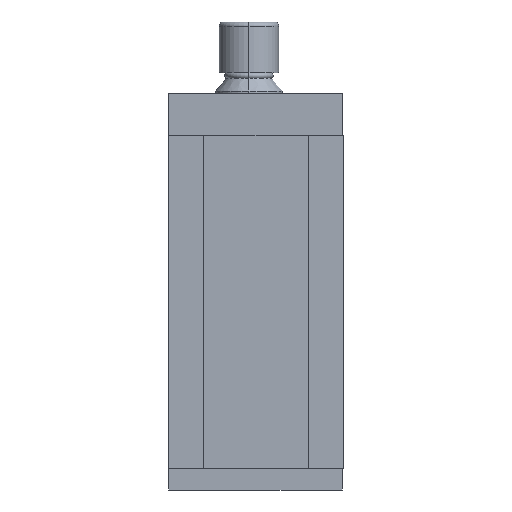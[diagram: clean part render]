
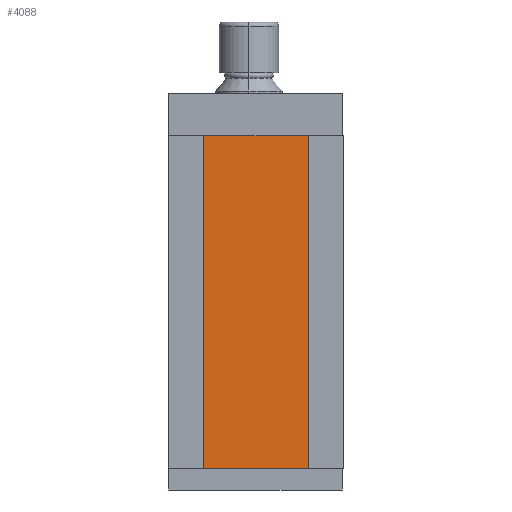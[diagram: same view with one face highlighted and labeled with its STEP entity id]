
A CAD part, front view. The second image highlights one B-rep face of the part: STEP entity #4088.
In plain terms, the highlighted planar face has unit normal (0, -1, 0).
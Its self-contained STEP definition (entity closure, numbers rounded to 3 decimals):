
#610 = FACE_OUTER_BOUND ( 'NONE', #4073, .T. ) ;
#618 = DIRECTION ( 'NONE',  ( -1., 0., 0. ) ) ;
#619 = VECTOR ( 'NONE', #618, 1000. ) ;
#620 = CARTESIAN_POINT ( 'NONE',  ( 15.866, -11.5, 47.5 ) ) ;
#621 = LINE ( 'NONE', #620, #619 ) ;
#626 = DIRECTION ( 'NONE',  ( 0., 0., 1. ) ) ;
#627 = VECTOR ( 'NONE', #626, 1000. ) ;
#628 = CARTESIAN_POINT ( 'NONE',  ( -15.866, -11.5, -47.5 ) ) ;
#629 = LINE ( 'NONE', #628, #627 ) ;
#650 = CARTESIAN_POINT ( 'NONE',  ( -15.866, -11.5, 47.5 ) ) ;
#655 = DIRECTION ( 'NONE',  ( -1., 0., 0. ) ) ;
#656 = DIRECTION ( 'NONE',  ( 0., 1., 0. ) ) ;
#657 = CARTESIAN_POINT ( 'NONE',  ( 15.866, -11.5, -47.5 ) ) ;
#658 = AXIS2_PLACEMENT_3D ( 'NONE', #657, #656, #655 ) ;
#659 = PLANE ( 'NONE',  #658 ) ;
#666 = CARTESIAN_POINT ( 'NONE',  ( 15.866, -11.5, -47.5 ) ) ;
#667 = DIRECTION ( 'NONE',  ( 0., 0., 1. ) ) ;
#668 = VECTOR ( 'NONE', #667, 1000. ) ;
#669 = CARTESIAN_POINT ( 'NONE',  ( 15.866, -11.5, -47.5 ) ) ;
#670 = LINE ( 'NONE', #669, #668 ) ;
#704 = DIRECTION ( 'NONE',  ( -1., 0., 0. ) ) ;
#705 = VECTOR ( 'NONE', #704, 1000. ) ;
#706 = CARTESIAN_POINT ( 'NONE',  ( 15.866, -11.5, -47.5 ) ) ;
#707 = LINE ( 'NONE', #706, #705 ) ;
#713 = CARTESIAN_POINT ( 'NONE',  ( -15.866, -11.5, -47.5 ) ) ;
#958 = CARTESIAN_POINT ( 'NONE',  ( 15.866, -11.5, 47.5 ) ) ;
#4069 = ORIENTED_EDGE ( 'NONE', *, *, #4081, .F. ) ;
#4073 = EDGE_LOOP ( 'NONE', ( #4128, #4069, #4110, #4095 ) ) ;
#4081 = EDGE_CURVE ( 'NONE', #4111, #4090, #629, .T. ) ;
#4084 = EDGE_CURVE ( 'NONE', #4233, #4090, #621, .T. ) ;
#4088 = ADVANCED_FACE ( 'Fl�che1', ( #610 ), #659, .F. ) ;
#4090 = VERTEX_POINT ( 'NONE', #650 ) ;
#4095 = ORIENTED_EDGE ( 'NONE', *, *, #4098, .T. ) ;
#4098 = EDGE_CURVE ( 'NONE', #4101, #4233, #670, .T. ) ;
#4101 = VERTEX_POINT ( 'NONE', #666 ) ;
#4110 = ORIENTED_EDGE ( 'NONE', *, *, #4114, .F. ) ;
#4111 = VERTEX_POINT ( 'NONE', #713 ) ;
#4114 = EDGE_CURVE ( 'NONE', #4101, #4111, #707, .T. ) ;
#4128 = ORIENTED_EDGE ( 'NONE', *, *, #4084, .T. ) ;
#4233 = VERTEX_POINT ( 'NONE', #958 ) ;
